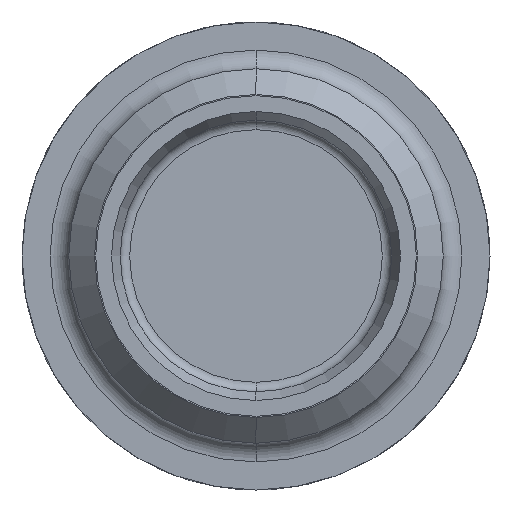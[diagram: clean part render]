
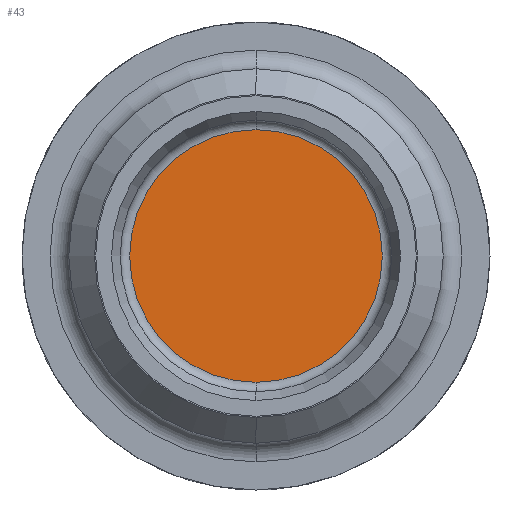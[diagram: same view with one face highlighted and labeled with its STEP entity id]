
A CAD part, left-side view. The second image highlights one B-rep face of the part: STEP entity #43.
In plain terms, the highlighted planar face has unit normal (-1, 0, 0).
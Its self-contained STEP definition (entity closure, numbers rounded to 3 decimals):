
#39 = DIRECTION ( 'NONE',  ( 0., 0., 1. ) ) ;
#43 = ADVANCED_FACE ( 'PLANAR_7', ( #1390 ), #1234, .F. ) ;
#48 = DIRECTION ( 'NONE',  ( -1., 0., 0. ) ) ;
#79 = DIRECTION ( 'NONE',  ( 0., 0., -1. ) ) ;
#339 = CIRCLE ( 'NONE', #862, 2.7 ) ;
#465 = VERTEX_POINT ( 'NONE', #1074 ) ;
#862 = AXIS2_PLACEMENT_3D ( 'NONE', #1695, #48, #39 ) ;
#865 = ORIENTED_EDGE ( 'NONE', *, *, #1749, .T. ) ;
#891 = DIRECTION ( 'NONE',  ( 1., 0., 0. ) ) ;
#966 = CARTESIAN_POINT ( 'NONE',  ( 5., 0., -2.7 ) ) ;
#1032 = CARTESIAN_POINT ( 'NONE',  ( 5., 0., 0. ) ) ;
#1074 = CARTESIAN_POINT ( 'NONE',  ( 5., 0., 2.7 ) ) ;
#1167 = VERTEX_POINT ( 'NONE', #966 ) ;
#1211 = CIRCLE ( 'NONE', #1494, 2.7 ) ;
#1216 = CARTESIAN_POINT ( 'NONE',  ( 5., 0., 0. ) ) ;
#1234 = PLANE ( 'NONE',  #1564 ) ;
#1238 = EDGE_CURVE ( 'NONE', #465, #1167, #1211, .T. ) ;
#1366 = EDGE_LOOP ( 'NONE', ( #1997, #865 ) ) ;
#1390 = FACE_OUTER_BOUND ( 'NONE', #1366, .T. ) ;
#1494 = AXIS2_PLACEMENT_3D ( 'NONE', #1032, #1698, #2022 ) ;
#1564 = AXIS2_PLACEMENT_3D ( 'NONE', #1216, #891, #79 ) ;
#1695 = CARTESIAN_POINT ( 'NONE',  ( 5., 0., 0. ) ) ;
#1698 = DIRECTION ( 'NONE',  ( -1., 0., 0. ) ) ;
#1749 = EDGE_CURVE ( 'NONE', #1167, #465, #339, .T. ) ;
#1997 = ORIENTED_EDGE ( 'NONE', *, *, #1238, .T. ) ;
#2022 = DIRECTION ( 'NONE',  ( 0., 0., 1. ) ) ;
